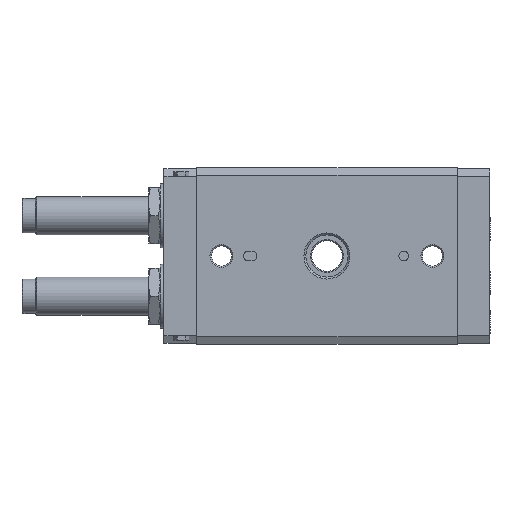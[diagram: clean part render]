
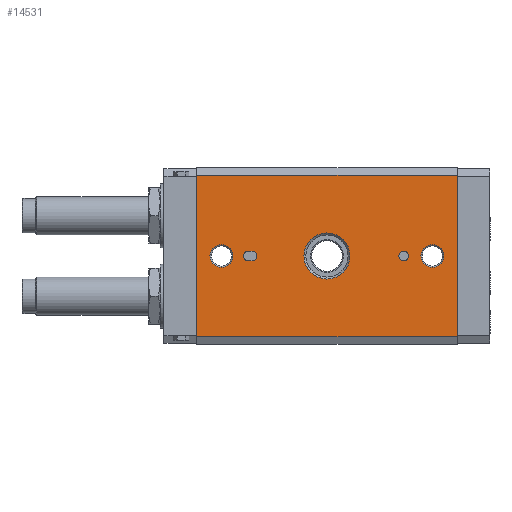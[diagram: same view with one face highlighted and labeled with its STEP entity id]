
A CAD part, front view. The second image highlights one B-rep face of the part: STEP entity #14531.
In plain terms, the highlighted planar face has unit normal (0, -1, 0).
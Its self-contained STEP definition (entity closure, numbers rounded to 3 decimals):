
#430 = AXIS2_PLACEMENT_3D ( 'NONE', #31470, #12503, #34171 ) ;
#577 = ORIENTED_EDGE ( 'NONE', *, *, #5868, .F. ) ;
#682 = CARTESIAN_POINT ( 'NONE',  ( -55., 0., -6. ) ) ;
#783 = EDGE_CURVE ( 'NONE', #1623, #12981, #18780, .T. ) ;
#813 = DIRECTION ( 'NONE',  ( 0., -1., 0. ) ) ;
#1024 = CARTESIAN_POINT ( 'NONE',  ( 55., 0., 0. ) ) ;
#1316 = CARTESIAN_POINT ( 'NONE',  ( -55., 0., 6. ) ) ;
#1401 = CARTESIAN_POINT ( 'NONE',  ( -39., 0., 0. ) ) ;
#1623 = VERTEX_POINT ( 'NONE', #10530 ) ;
#1896 = VECTOR ( 'NONE', #30454, 1000. ) ;
#2142 = ORIENTED_EDGE ( 'NONE', *, *, #15163, .F. ) ;
#2186 = CARTESIAN_POINT ( 'NONE',  ( 68., 0., 2.5 ) ) ;
#2281 = CARTESIAN_POINT ( 'NONE',  ( 40., 0., 2.5 ) ) ;
#2300 = EDGE_CURVE ( 'NONE', #30504, #6541, #12453, .T. ) ;
#2330 = DIRECTION ( 'NONE',  ( 0., 1., 0. ) ) ;
#2415 = FACE_BOUND ( 'NONE', #6588, .T. ) ;
#2453 = VERTEX_POINT ( 'NONE', #22719 ) ;
#3070 = ORIENTED_EDGE ( 'NONE', *, *, #13559, .F. ) ;
#3299 = VERTEX_POINT ( 'NONE', #30751 ) ;
#3327 = CARTESIAN_POINT ( 'NONE',  ( -39., 0., 2.5 ) ) ;
#3473 = EDGE_CURVE ( 'NONE', #26909, #3299, #32982, .T. ) ;
#4012 = CARTESIAN_POINT ( 'NONE',  ( 40., 0., 0. ) ) ;
#4927 = DIRECTION ( 'NONE',  ( -1., 0., 0. ) ) ;
#4974 = FACE_OUTER_BOUND ( 'NONE', #28045, .T. ) ;
#5419 = DIRECTION ( 'NONE',  ( 0., 0., 1. ) ) ;
#5763 = EDGE_CURVE ( 'NONE', #26275, #26909, #11658, .T. ) ;
#5868 = EDGE_CURVE ( 'NONE', #30841, #25151, #11216, .T. ) ;
#6171 = DIRECTION ( 'NONE',  ( 0., -1., 0. ) ) ;
#6242 = CARTESIAN_POINT ( 'NONE',  ( -41., 0., -2.5 ) ) ;
#6541 = VERTEX_POINT ( 'NONE', #1316 ) ;
#6588 = EDGE_LOOP ( 'NONE', ( #21324, #7394 ) ) ;
#6629 = VECTOR ( 'NONE', #14970, 1000. ) ;
#7011 = CARTESIAN_POINT ( 'NONE',  ( 68., 0., -42. ) ) ;
#7242 = DIRECTION ( 'NONE',  ( 0., 0., 1. ) ) ;
#7394 = ORIENTED_EDGE ( 'NONE', *, *, #19317, .F. ) ;
#7516 = AXIS2_PLACEMENT_3D ( 'NONE', #22735, #813, #9171 ) ;
#7595 = PLANE ( 'NONE',  #19359 ) ;
#7932 = AXIS2_PLACEMENT_3D ( 'NONE', #4012, #6171, #17362 ) ;
#8170 = CARTESIAN_POINT ( 'NONE',  ( 68., 0., 42. ) ) ;
#8377 = ORIENTED_EDGE ( 'NONE', *, *, #33032, .F. ) ;
#8647 = DIRECTION ( 'NONE',  ( 0., 0., -1. ) ) ;
#8804 = EDGE_CURVE ( 'NONE', #6541, #30504, #30584, .T. ) ;
#8904 = CARTESIAN_POINT ( 'NONE',  ( 0., 0., 12. ) ) ;
#9171 = DIRECTION ( 'NONE',  ( 0., 0., -1. ) ) ;
#10071 = EDGE_LOOP ( 'NONE', ( #26532, #33615 ) ) ;
#10530 = CARTESIAN_POINT ( 'NONE',  ( 55., 0., -6. ) ) ;
#10600 = ORIENTED_EDGE ( 'NONE', *, *, #5763, .F. ) ;
#10674 = CIRCLE ( 'NONE', #34188, 12. ) ;
#10726 = EDGE_CURVE ( 'NONE', #19641, #11783, #25088, .T. ) ;
#11138 = CARTESIAN_POINT ( 'NONE',  ( -41., 0., 2.5 ) ) ;
#11216 = CIRCLE ( 'NONE', #34887, 12. ) ;
#11658 = LINE ( 'NONE', #27759, #26046 ) ;
#11695 = DIRECTION ( 'NONE',  ( 0., 0., -1. ) ) ;
#11783 = VERTEX_POINT ( 'NONE', #19892 ) ;
#11971 = CARTESIAN_POINT ( 'NONE',  ( 68., 0., 42. ) ) ;
#12287 = FACE_BOUND ( 'NONE', #15374, .T. ) ;
#12453 = CIRCLE ( 'NONE', #23764, 6. ) ;
#12484 = DIRECTION ( 'NONE',  ( 1., 0., 0. ) ) ;
#12503 = DIRECTION ( 'NONE',  ( 0., -1., 0. ) ) ;
#12532 = AXIS2_PLACEMENT_3D ( 'NONE', #19312, #22063, #22291 ) ;
#12538 = EDGE_CURVE ( 'NONE', #23535, #26275, #22736, .T. ) ;
#12897 = ORIENTED_EDGE ( 'NONE', *, *, #27059, .F. ) ;
#12981 = VERTEX_POINT ( 'NONE', #18748 ) ;
#13086 = CIRCLE ( 'NONE', #7932, 2.5 ) ;
#13158 = VERTEX_POINT ( 'NONE', #6242 ) ;
#13197 = AXIS2_PLACEMENT_3D ( 'NONE', #1024, #22710, #11695 ) ;
#13306 = EDGE_CURVE ( 'NONE', #13158, #2453, #16644, .T. ) ;
#13559 = EDGE_CURVE ( 'NONE', #20807, #13158, #24210, .T. ) ;
#13925 = DIRECTION ( 'NONE',  ( 0., -1., 0. ) ) ;
#14531 = ADVANCED_FACE ( 'NONE', ( #15222, #29246, #2415, #30510, #12287, #4974 ), #7595, .F. ) ;
#14867 = CARTESIAN_POINT ( 'NONE',  ( -68., 0., 42. ) ) ;
#14970 = DIRECTION ( 'NONE',  ( 0., 0., 1. ) ) ;
#15145 = EDGE_LOOP ( 'NONE', ( #577, #28838 ) ) ;
#15163 = EDGE_CURVE ( 'NONE', #2453, #29449, #15530, .T. ) ;
#15222 = FACE_BOUND ( 'NONE', #15145, .T. ) ;
#15374 = EDGE_LOOP ( 'NONE', ( #23945, #23554 ) ) ;
#15530 = CIRCLE ( 'NONE', #24850, 2.5 ) ;
#16206 = CARTESIAN_POINT ( 'NONE',  ( 68., 0., 42. ) ) ;
#16644 = LINE ( 'NONE', #28702, #31504 ) ;
#17362 = DIRECTION ( 'NONE',  ( 0., 0., 1. ) ) ;
#17602 = DIRECTION ( 'NONE',  ( 0., -1., 0. ) ) ;
#18748 = CARTESIAN_POINT ( 'NONE',  ( 55., 0., 6. ) ) ;
#18780 = CIRCLE ( 'NONE', #13197, 6. ) ;
#18998 = CARTESIAN_POINT ( 'NONE',  ( 0., 0., -12. ) ) ;
#19312 = CARTESIAN_POINT ( 'NONE',  ( -41., 0., 0. ) ) ;
#19317 = EDGE_CURVE ( 'NONE', #11783, #19641, #13086, .T. ) ;
#19359 = AXIS2_PLACEMENT_3D ( 'NONE', #8170, #2330, #5419 ) ;
#19625 = DIRECTION ( 'NONE',  ( 0., -1., 0. ) ) ;
#19641 = VERTEX_POINT ( 'NONE', #2281 ) ;
#19856 = DIRECTION ( 'NONE',  ( 0., 0., -1. ) ) ;
#19885 = EDGE_CURVE ( 'NONE', #12981, #1623, #22306, .T. ) ;
#19892 = CARTESIAN_POINT ( 'NONE',  ( 40., 0., -2.5 ) ) ;
#20795 = CARTESIAN_POINT ( 'NONE',  ( -68., 0., -42. ) ) ;
#20807 = VERTEX_POINT ( 'NONE', #11138 ) ;
#20986 = DIRECTION ( 'NONE',  ( 0., 0., 1. ) ) ;
#21324 = ORIENTED_EDGE ( 'NONE', *, *, #10726, .F. ) ;
#21784 = CARTESIAN_POINT ( 'NONE',  ( 68., 0., 42. ) ) ;
#22063 = DIRECTION ( 'NONE',  ( 0., -1., 0. ) ) ;
#22291 = DIRECTION ( 'NONE',  ( 0., 0., 1. ) ) ;
#22306 = CIRCLE ( 'NONE', #7516, 6. ) ;
#22410 = ORIENTED_EDGE ( 'NONE', *, *, #13306, .F. ) ;
#22710 = DIRECTION ( 'NONE',  ( 0., -1., 0. ) ) ;
#22719 = CARTESIAN_POINT ( 'NONE',  ( -39., 0., -2.5 ) ) ;
#22735 = CARTESIAN_POINT ( 'NONE',  ( 55., 0., 0. ) ) ;
#22736 = LINE ( 'NONE', #16206, #26960 ) ;
#23535 = VERTEX_POINT ( 'NONE', #21784 ) ;
#23554 = ORIENTED_EDGE ( 'NONE', *, *, #19885, .F. ) ;
#23764 = AXIS2_PLACEMENT_3D ( 'NONE', #30550, #19625, #19856 ) ;
#23815 = CARTESIAN_POINT ( 'NONE',  ( 40., 0., 0. ) ) ;
#23945 = ORIENTED_EDGE ( 'NONE', *, *, #783, .F. ) ;
#24210 = CIRCLE ( 'NONE', #12532, 2.5 ) ;
#24487 = DIRECTION ( 'NONE',  ( 0., 0., -1. ) ) ;
#24850 = AXIS2_PLACEMENT_3D ( 'NONE', #1401, #17602, #7242 ) ;
#25053 = CARTESIAN_POINT ( 'NONE',  ( 0., 0., 0. ) ) ;
#25088 = CIRCLE ( 'NONE', #31279, 2.5 ) ;
#25151 = VERTEX_POINT ( 'NONE', #8904 ) ;
#26046 = VECTOR ( 'NONE', #30272, 1000. ) ;
#26275 = VERTEX_POINT ( 'NONE', #7011 ) ;
#26400 = VECTOR ( 'NONE', #4927, 1000. ) ;
#26532 = ORIENTED_EDGE ( 'NONE', *, *, #2300, .F. ) ;
#26592 = LINE ( 'NONE', #11971, #1896 ) ;
#26909 = VERTEX_POINT ( 'NONE', #20795 ) ;
#26960 = VECTOR ( 'NONE', #24487, 1000. ) ;
#27059 = EDGE_CURVE ( 'NONE', #29449, #20807, #32759, .T. ) ;
#27759 = CARTESIAN_POINT ( 'NONE',  ( 68., 0., -42. ) ) ;
#28045 = EDGE_LOOP ( 'NONE', ( #29073, #8377, #34605, #10600 ) ) ;
#28702 = CARTESIAN_POINT ( 'NONE',  ( 68., 0., -2.5 ) ) ;
#28838 = ORIENTED_EDGE ( 'NONE', *, *, #31743, .F. ) ;
#28905 = DIRECTION ( 'NONE',  ( 0., -1., 0. ) ) ;
#29027 = CARTESIAN_POINT ( 'NONE',  ( 0., 0., 0. ) ) ;
#29044 = DIRECTION ( 'NONE',  ( 0., -1., 0. ) ) ;
#29073 = ORIENTED_EDGE ( 'NONE', *, *, #12538, .F. ) ;
#29246 = FACE_BOUND ( 'NONE', #32115, .T. ) ;
#29449 = VERTEX_POINT ( 'NONE', #3327 ) ;
#30272 = DIRECTION ( 'NONE',  ( -1., 0., 0. ) ) ;
#30454 = DIRECTION ( 'NONE',  ( 1., 0., 0. ) ) ;
#30504 = VERTEX_POINT ( 'NONE', #682 ) ;
#30510 = FACE_BOUND ( 'NONE', #10071, .T. ) ;
#30550 = CARTESIAN_POINT ( 'NONE',  ( -55., 0., 0. ) ) ;
#30584 = CIRCLE ( 'NONE', #430, 6. ) ;
#30751 = CARTESIAN_POINT ( 'NONE',  ( -68., 0., 42. ) ) ;
#30841 = VERTEX_POINT ( 'NONE', #18998 ) ;
#31279 = AXIS2_PLACEMENT_3D ( 'NONE', #23815, #29044, #20986 ) ;
#31470 = CARTESIAN_POINT ( 'NONE',  ( -55., 0., 0. ) ) ;
#31504 = VECTOR ( 'NONE', #12484, 1000. ) ;
#31743 = EDGE_CURVE ( 'NONE', #25151, #30841, #10674, .T. ) ;
#32115 = EDGE_LOOP ( 'NONE', ( #12897, #2142, #22410, #3070 ) ) ;
#32759 = LINE ( 'NONE', #2186, #26400 ) ;
#32982 = LINE ( 'NONE', #14867, #6629 ) ;
#33032 = EDGE_CURVE ( 'NONE', #3299, #23535, #26592, .T. ) ;
#33615 = ORIENTED_EDGE ( 'NONE', *, *, #8804, .F. ) ;
#34171 = DIRECTION ( 'NONE',  ( 0., 0., -1. ) ) ;
#34188 = AXIS2_PLACEMENT_3D ( 'NONE', #29027, #28905, #34478 ) ;
#34478 = DIRECTION ( 'NONE',  ( 0., 0., -1. ) ) ;
#34605 = ORIENTED_EDGE ( 'NONE', *, *, #3473, .F. ) ;
#34887 = AXIS2_PLACEMENT_3D ( 'NONE', #25053, #13925, #8647 ) ;
